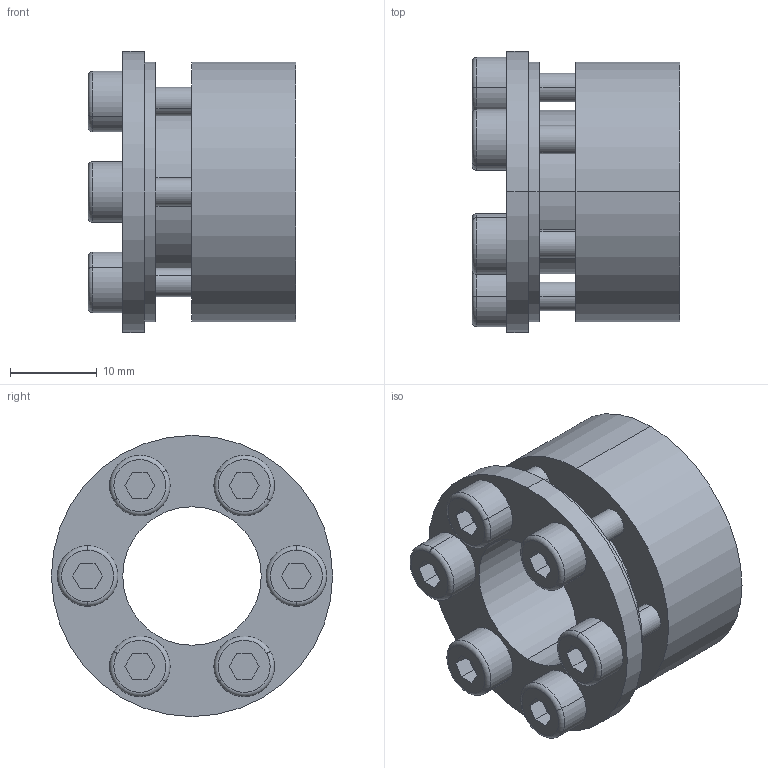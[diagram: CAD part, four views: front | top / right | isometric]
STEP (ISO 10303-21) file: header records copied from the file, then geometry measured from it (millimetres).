
FILE_DESCRIPTION (( 'STEP AP203' ), '1' );
FILE_NAME ('SK-16.STEP', '2009-09-29T17:27:40', ( 'USER' ), ( 'HOME' ), 'SwSTEP 2.0', 'SolidWorks 2007', '' );
FILE_SCHEMA (( 'CONFIG_CONTROL_DESIGN' ));
Length unit declared in the file: millimetre
Products named in the file (1): SK-16
Bounding box: 24 x 32.5 x 32.5 mm (x, y, z)
Volume: 9135.9 mm3; surface area: 7354.3 mm2
Topology: 7 solids, 7 shells, 135 faces, 306 edges, 200 vertices
Faces by surface type: plane 65, cylinder 58, torus 12
Entity records: 3941 total; most frequent: DIRECTION 718, CARTESIAN_POINT 642, ORIENTED_EDGE 612, EDGE_CURVE 306, AXIS2_PLACEMENT_3D 276, VERTEX_POINT 200, EDGE_LOOP 176, LINE 166
